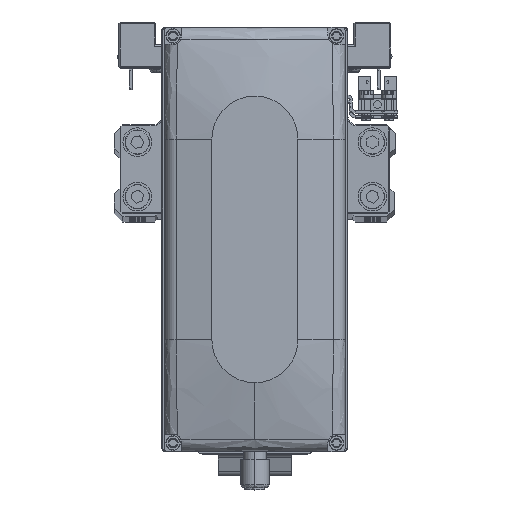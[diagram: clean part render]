
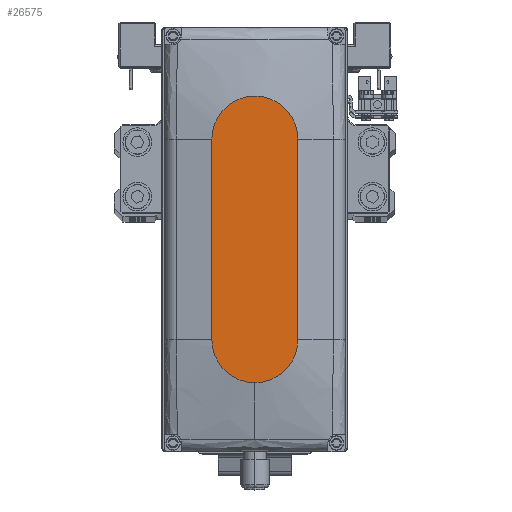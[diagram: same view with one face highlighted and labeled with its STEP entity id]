
A CAD part, top view. The second image highlights one B-rep face of the part: STEP entity #26575.
In plain terms, the highlighted planar face has unit normal (0, 0, 1).
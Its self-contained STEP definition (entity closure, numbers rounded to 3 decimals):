
#1846 = AXIS2_PLACEMENT_3D ( 'NONE', #39942, #9419, #23004 ) ;
#1877 = EDGE_CURVE ( 'NONE', #24032, #7231, #26161, .T. ) ;
#2757 = DIRECTION ( 'NONE',  ( 1., 0., 0. ) ) ;
#2865 = CARTESIAN_POINT ( 'NONE',  ( 0., 0., 35. ) ) ;
#3492 = ORIENTED_EDGE ( 'NONE', *, *, #1877, .T. ) ;
#4618 = VECTOR ( 'NONE', #43615, 1000. ) ;
#4666 = AXIS2_PLACEMENT_3D ( 'NONE', #19707, #33307, #2757 ) ;
#7231 = VERTEX_POINT ( 'NONE', #21854 ) ;
#9226 = DIRECTION ( 'NONE',  ( -1., 0., 0. ) ) ;
#9419 = DIRECTION ( 'NONE',  ( 0., 0., 1. ) ) ;
#11443 = DIRECTION ( 'NONE',  ( 0., 0., 1. ) ) ;
#11481 = EDGE_CURVE ( 'NONE', #22815, #24032, #23891, .T. ) ;
#16421 = LINE ( 'NONE', #30024, #4618 ) ;
#16459 = DIRECTION ( 'NONE',  ( 0., 0., 1. ) ) ;
#18364 = CARTESIAN_POINT ( 'NONE',  ( -35., -15., 35. ) ) ;
#19484 = AXIS2_PLACEMENT_3D ( 'NONE', #41994, #11443, #25058 ) ;
#19707 = CARTESIAN_POINT ( 'NONE',  ( 35., 0., 35. ) ) ;
#19815 = FACE_OUTER_BOUND ( 'NONE', #35611, .T. ) ;
#20804 = EDGE_CURVE ( 'NONE', #42404, #42977, #16421, .T. ) ;
#21069 = CIRCLE ( 'NONE', #1846, 15. ) ;
#21854 = CARTESIAN_POINT ( 'NONE',  ( -35., 15., 35. ) ) ;
#22815 = VERTEX_POINT ( 'NONE', #43298 ) ;
#23004 = DIRECTION ( 'NONE',  ( 1., 0., 0. ) ) ;
#23840 = ORIENTED_EDGE ( 'NONE', *, *, #27936, .T. ) ;
#23891 = CIRCLE ( 'NONE', #4666, 15. ) ;
#24032 = VERTEX_POINT ( 'NONE', #32899 ) ;
#24262 = EDGE_CURVE ( 'NONE', #7231, #42404, #38702, .T. ) ;
#25058 = DIRECTION ( 'NONE',  ( 1., 0., 0. ) ) ;
#26161 = LINE ( 'NONE', #39753, #28264 ) ;
#26575 = ADVANCED_FACE ( 'NONE', ( #19815 ), #33414, .T. ) ;
#27936 = EDGE_CURVE ( 'NONE', #42977, #22815, #21069, .T. ) ;
#28264 = VECTOR ( 'NONE', #9226, 1000. ) ;
#28815 = AXIS2_PLACEMENT_3D ( 'NONE', #2865, #16459, #30060 ) ;
#30024 = CARTESIAN_POINT ( 'NONE',  ( -35., -15., 35. ) ) ;
#30060 = DIRECTION ( 'NONE',  ( 1., 0., 0. ) ) ;
#32899 = CARTESIAN_POINT ( 'NONE',  ( 35., 15., 35. ) ) ;
#33307 = DIRECTION ( 'NONE',  ( 0., 0., 1. ) ) ;
#33414 = PLANE ( 'NONE',  #28815 ) ;
#34564 = ORIENTED_EDGE ( 'NONE', *, *, #11481, .T. ) ;
#35611 = EDGE_LOOP ( 'NONE', ( #3492, #36323, #42032, #23840, #34564 ) ) ;
#36323 = ORIENTED_EDGE ( 'NONE', *, *, #24262, .T. ) ;
#38218 = CARTESIAN_POINT ( 'NONE',  ( 35., -15., 35. ) ) ;
#38702 = CIRCLE ( 'NONE', #19484, 15. ) ;
#39753 = CARTESIAN_POINT ( 'NONE',  ( -35., 15., 35. ) ) ;
#39942 = CARTESIAN_POINT ( 'NONE',  ( 35., 0., 35. ) ) ;
#41994 = CARTESIAN_POINT ( 'NONE',  ( -35., 0., 35. ) ) ;
#42032 = ORIENTED_EDGE ( 'NONE', *, *, #20804, .T. ) ;
#42404 = VERTEX_POINT ( 'NONE', #18364 ) ;
#42977 = VERTEX_POINT ( 'NONE', #38218 ) ;
#43298 = CARTESIAN_POINT ( 'NONE',  ( 50., 0., 35. ) ) ;
#43615 = DIRECTION ( 'NONE',  ( 1., 0., 0. ) ) ;
